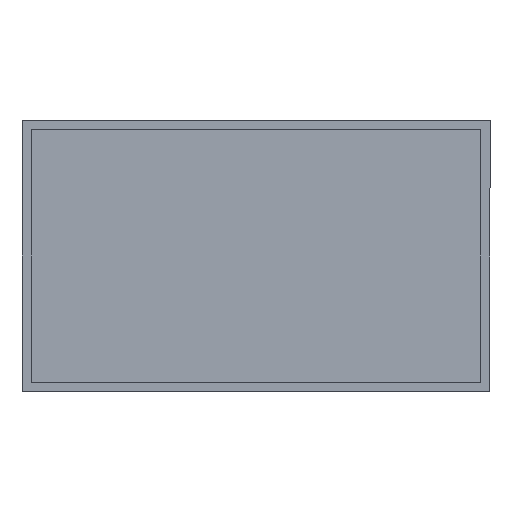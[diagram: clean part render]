
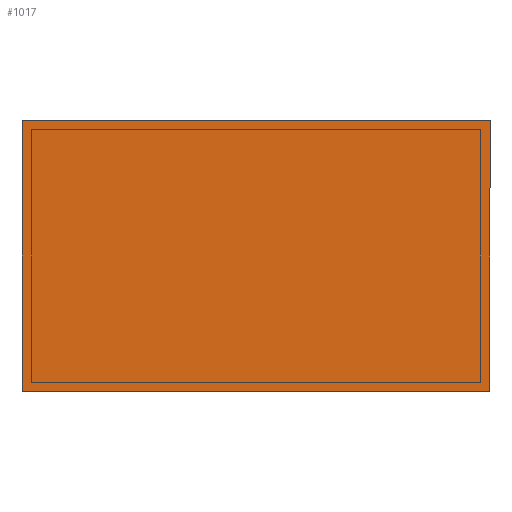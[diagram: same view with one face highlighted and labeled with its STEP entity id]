
A CAD part, front view. The second image highlights one B-rep face of the part: STEP entity #1017.
In plain terms, the highlighted planar face has unit normal (0, -1, 0).
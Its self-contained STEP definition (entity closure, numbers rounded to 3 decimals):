
#41 = DIRECTION ( 'NONE',  ( -1., 0., 0. ) ) ;
#62 = DIRECTION ( 'NONE',  ( 0., 0., 1. ) ) ;
#98 = LINE ( 'NONE', #895, #1426 ) ;
#116 = CARTESIAN_POINT ( 'NONE',  ( -20.3, -9.6, -11.75 ) ) ;
#124 = DIRECTION ( 'NONE',  ( 0., 0., 1. ) ) ;
#171 = EDGE_CURVE ( 'NONE', #1093, #450, #98, .T. ) ;
#208 = CARTESIAN_POINT ( 'NONE',  ( -20.3, -9.6, 11.75 ) ) ;
#226 = EDGE_CURVE ( 'NONE', #450, #898, #909, .T. ) ;
#345 = LINE ( 'NONE', #572, #1663 ) ;
#450 = VERTEX_POINT ( 'NONE', #208 ) ;
#515 = CARTESIAN_POINT ( 'NONE',  ( 20.3, -9.6, 11.75 ) ) ;
#572 = CARTESIAN_POINT ( 'NONE',  ( -20.3, -9.6, -11.75 ) ) ;
#581 = EDGE_CURVE ( 'NONE', #947, #1093, #345, .T. ) ;
#657 = CARTESIAN_POINT ( 'NONE',  ( -20.3, -9.6, 11.75 ) ) ;
#809 = LINE ( 'NONE', #1049, #1471 ) ;
#827 = EDGE_LOOP ( 'NONE', ( #841, #1350, #890, #1343 ) ) ;
#841 = ORIENTED_EDGE ( 'NONE', *, *, #171, .F. ) ;
#890 = ORIENTED_EDGE ( 'NONE', *, *, #1658, .F. ) ;
#895 = CARTESIAN_POINT ( 'NONE',  ( -20.3, -9.6, -11.75 ) ) ;
#898 = VERTEX_POINT ( 'NONE', #515 ) ;
#909 = LINE ( 'NONE', #657, #1668 ) ;
#931 = DIRECTION ( 'NONE',  ( 0., 0., -1. ) ) ;
#947 = VERTEX_POINT ( 'NONE', #1197 ) ;
#1000 = AXIS2_PLACEMENT_3D ( 'NONE', #1457, #1217, #62 ) ;
#1017 = ADVANCED_FACE ( 'NONE', ( #1509 ), #1336, .F. ) ;
#1049 = CARTESIAN_POINT ( 'NONE',  ( 20.3, -9.6, -11.75 ) ) ;
#1093 = VERTEX_POINT ( 'NONE', #116 ) ;
#1197 = CARTESIAN_POINT ( 'NONE',  ( 20.3, -9.6, -11.75 ) ) ;
#1217 = DIRECTION ( 'NONE',  ( 0., 1., 0. ) ) ;
#1336 = PLANE ( 'NONE',  #1000 ) ;
#1343 = ORIENTED_EDGE ( 'NONE', *, *, #226, .F. ) ;
#1350 = ORIENTED_EDGE ( 'NONE', *, *, #581, .F. ) ;
#1426 = VECTOR ( 'NONE', #124, 1000. ) ;
#1449 = DIRECTION ( 'NONE',  ( 1., 0., 0. ) ) ;
#1457 = CARTESIAN_POINT ( 'NONE',  ( -20.3, -9.6, 11.75 ) ) ;
#1471 = VECTOR ( 'NONE', #931, 1000. ) ;
#1509 = FACE_OUTER_BOUND ( 'NONE', #827, .T. ) ;
#1658 = EDGE_CURVE ( 'NONE', #898, #947, #809, .T. ) ;
#1663 = VECTOR ( 'NONE', #41, 1000. ) ;
#1668 = VECTOR ( 'NONE', #1449, 1000. ) ;
